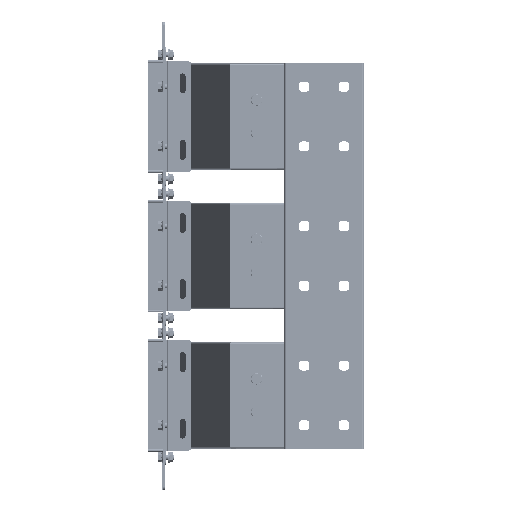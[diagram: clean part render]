
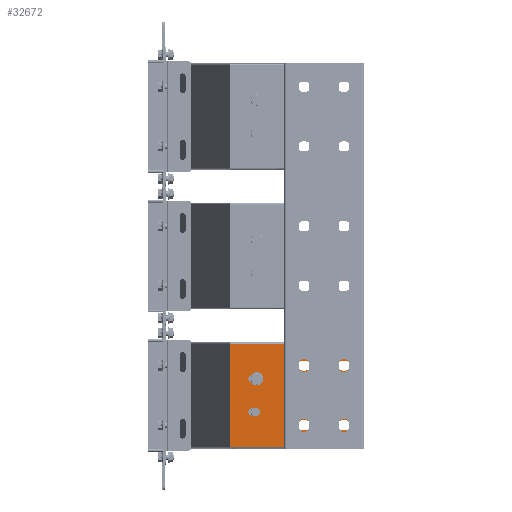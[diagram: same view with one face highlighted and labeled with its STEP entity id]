
A CAD part, front view. The second image highlights one B-rep face of the part: STEP entity #32672.
In plain terms, the highlighted planar face has unit normal (0, -1, 0).
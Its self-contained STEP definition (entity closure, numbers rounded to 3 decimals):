
#32428=AXIS2_PLACEMENT_3D('Circle Axis2P3D',#32426,#32427,$) ;
#32448=AXIS2_PLACEMENT_3D('Plane Axis2P3D',#32445,#32446,#32447) ;
#32486=AXIS2_PLACEMENT_3D('Circle Axis2P3D',#32484,#32485,$) ;
#32504=AXIS2_PLACEMENT_3D('Circle Axis2P3D',#32502,#32503,$) ;
#32520=AXIS2_PLACEMENT_3D('Circle Axis2P3D',#32518,#32519,$) ;
#32538=AXIS2_PLACEMENT_3D('Circle Axis2P3D',#32536,#32537,$) ;
#32554=AXIS2_PLACEMENT_3D('Circle Axis2P3D',#32552,#32553,$) ;
#32581=AXIS2_PLACEMENT_3D('Circle Axis2P3D',#32579,#32580,$) ;
#32595=AXIS2_PLACEMENT_3D('Circle Axis2P3D',#32593,#32594,$) ;
#32606=AXIS2_PLACEMENT_3D('Circle Axis2P3D',#32604,#32605,$) ;
#32622=AXIS2_PLACEMENT_3D('Circle Axis2P3D',#32620,#32621,$) ;
#32640=AXIS2_PLACEMENT_3D('Circle Axis2P3D',#32638,#32639,$) ;
#32656=AXIS2_PLACEMENT_3D('Circle Axis2P3D',#32654,#32655,$) ;
#32392=CARTESIAN_POINT('Vertex',(212.5,-218.,52.5)) ;
#32395=CARTESIAN_POINT('Line Origine',(210.,-218.,52.5)) ;
#32399=CARTESIAN_POINT('Vertex',(207.5,-218.,52.5)) ;
#32426=CARTESIAN_POINT('Axis2P3D Location',(207.5,-218.,45.)) ;
#32430=CARTESIAN_POINT('Vertex',(207.5,-218.,37.5)) ;
#32445=CARTESIAN_POINT('Axis2P3D Location',(300.,-218.,-77.)) ;
#32450=CARTESIAN_POINT('Line Origine',(199.021,-218.,-77.)) ;
#32454=CARTESIAN_POINT('Vertex',(300.,-218.,-77.)) ;
#32456=CARTESIAN_POINT('Vertex',(98.041,-218.,-77.)) ;
#32459=CARTESIAN_POINT('Line Origine',(300.,-218.,0.)) ;
#32463=CARTESIAN_POINT('Vertex',(300.,-218.,77.)) ;
#32466=CARTESIAN_POINT('Line Origine',(199.021,-218.,77.)) ;
#32470=CARTESIAN_POINT('Vertex',(98.041,-218.,77.)) ;
#32473=CARTESIAN_POINT('Line Origine',(98.041,-218.,0.)) ;
#32484=CARTESIAN_POINT('Axis2P3D Location',(212.5,-218.,45.)) ;
#32488=CARTESIAN_POINT('Vertex',(212.5,-218.,37.5)) ;
#32491=CARTESIAN_POINT('Line Origine',(210.,-218.,37.5)) ;
#32502=CARTESIAN_POINT('Axis2P3D Location',(272.5,-218.,45.)) ;
#32506=CARTESIAN_POINT('Vertex',(272.5,-218.,37.5)) ;
#32508=CARTESIAN_POINT('Vertex',(272.5,-218.,52.5)) ;
#32511=CARTESIAN_POINT('Line Origine',(270.,-218.,37.5)) ;
#32515=CARTESIAN_POINT('Vertex',(267.5,-218.,37.5)) ;
#32518=CARTESIAN_POINT('Axis2P3D Location',(267.5,-218.,45.)) ;
#32522=CARTESIAN_POINT('Vertex',(267.5,-218.,52.5)) ;
#32525=CARTESIAN_POINT('Line Origine',(270.,-218.,52.5)) ;
#32536=CARTESIAN_POINT('Axis2P3D Location',(207.5,-218.,-45.)) ;
#32540=CARTESIAN_POINT('Vertex',(207.5,-218.,-37.5)) ;
#32542=CARTESIAN_POINT('Vertex',(207.5,-218.,-52.5)) ;
#32545=CARTESIAN_POINT('Line Origine',(210.,-218.,-37.5)) ;
#32549=CARTESIAN_POINT('Vertex',(212.5,-218.,-37.5)) ;
#32552=CARTESIAN_POINT('Axis2P3D Location',(212.5,-218.,-45.)) ;
#32556=CARTESIAN_POINT('Vertex',(212.5,-218.,-52.5)) ;
#32559=CARTESIAN_POINT('Line Origine',(210.,-218.,-52.5)) ;
#32570=CARTESIAN_POINT('Line Origine',(270.,-218.,-37.5)) ;
#32574=CARTESIAN_POINT('Vertex',(272.5,-218.,-37.5)) ;
#32576=CARTESIAN_POINT('Vertex',(267.5,-218.,-37.5)) ;
#32579=CARTESIAN_POINT('Axis2P3D Location',(272.5,-218.,-45.)) ;
#32583=CARTESIAN_POINT('Vertex',(272.5,-218.,-52.5)) ;
#32586=CARTESIAN_POINT('Line Origine',(270.,-218.,-52.5)) ;
#32590=CARTESIAN_POINT('Vertex',(267.5,-218.,-52.5)) ;
#32593=CARTESIAN_POINT('Axis2P3D Location',(267.5,-218.,-45.)) ;
#32604=CARTESIAN_POINT('Axis2P3D Location',(138.5,-218.,25.)) ;
#32608=CARTESIAN_POINT('Vertex',(138.5,-218.,19.5)) ;
#32610=CARTESIAN_POINT('Vertex',(138.5,-218.,30.5)) ;
#32613=CARTESIAN_POINT('Line Origine',(135.,-218.,19.5)) ;
#32617=CARTESIAN_POINT('Vertex',(131.5,-218.,19.5)) ;
#32620=CARTESIAN_POINT('Axis2P3D Location',(131.5,-218.,25.)) ;
#32624=CARTESIAN_POINT('Vertex',(131.5,-218.,30.5)) ;
#32627=CARTESIAN_POINT('Line Origine',(135.,-218.,30.5)) ;
#32638=CARTESIAN_POINT('Axis2P3D Location',(131.5,-218.,-25.)) ;
#32642=CARTESIAN_POINT('Vertex',(131.5,-218.,-19.5)) ;
#32644=CARTESIAN_POINT('Vertex',(131.5,-218.,-30.5)) ;
#32647=CARTESIAN_POINT('Line Origine',(135.,-218.,-19.5)) ;
#32651=CARTESIAN_POINT('Vertex',(138.5,-218.,-19.5)) ;
#32654=CARTESIAN_POINT('Axis2P3D Location',(138.5,-218.,-25.)) ;
#32658=CARTESIAN_POINT('Vertex',(138.5,-218.,-30.5)) ;
#32661=CARTESIAN_POINT('Line Origine',(135.,-218.,-30.5)) ;
#32396=DIRECTION('Vector Direction',(1.,0.,0.)) ;
#32427=DIRECTION('Axis2P3D Direction',(0.,-1.,0.)) ;
#32446=DIRECTION('Axis2P3D Direction',(0.,-1.,0.)) ;
#32447=DIRECTION('Axis2P3D XDirection',(0.,0.,1.)) ;
#32451=DIRECTION('Vector Direction',(-1.,0.,0.)) ;
#32460=DIRECTION('Vector Direction',(0.,0.,1.)) ;
#32467=DIRECTION('Vector Direction',(-1.,0.,0.)) ;
#32474=DIRECTION('Vector Direction',(0.,0.,1.)) ;
#32485=DIRECTION('Axis2P3D Direction',(0.,-1.,0.)) ;
#32492=DIRECTION('Vector Direction',(-1.,0.,0.)) ;
#32503=DIRECTION('Axis2P3D Direction',(0.,-1.,0.)) ;
#32512=DIRECTION('Vector Direction',(1.,0.,0.)) ;
#32519=DIRECTION('Axis2P3D Direction',(0.,-1.,0.)) ;
#32526=DIRECTION('Vector Direction',(-1.,0.,0.)) ;
#32537=DIRECTION('Axis2P3D Direction',(0.,-1.,0.)) ;
#32546=DIRECTION('Vector Direction',(-1.,0.,0.)) ;
#32553=DIRECTION('Axis2P3D Direction',(0.,-1.,0.)) ;
#32560=DIRECTION('Vector Direction',(1.,0.,0.)) ;
#32571=DIRECTION('Vector Direction',(1.,0.,0.)) ;
#32580=DIRECTION('Axis2P3D Direction',(0.,-1.,0.)) ;
#32587=DIRECTION('Vector Direction',(-1.,0.,0.)) ;
#32594=DIRECTION('Axis2P3D Direction',(0.,-1.,0.)) ;
#32605=DIRECTION('Axis2P3D Direction',(0.,-1.,0.)) ;
#32614=DIRECTION('Vector Direction',(-1.,0.,0.)) ;
#32621=DIRECTION('Axis2P3D Direction',(0.,-1.,0.)) ;
#32628=DIRECTION('Vector Direction',(1.,0.,0.)) ;
#32639=DIRECTION('Axis2P3D Direction',(0.,-1.,0.)) ;
#32648=DIRECTION('Vector Direction',(-1.,0.,0.)) ;
#32655=DIRECTION('Axis2P3D Direction',(0.,-1.,0.)) ;
#32662=DIRECTION('Vector Direction',(1.,0.,0.)) ;
#32397=VECTOR('Line Direction',#32396,1.) ;
#32452=VECTOR('Line Direction',#32451,1.) ;
#32461=VECTOR('Line Direction',#32460,1.) ;
#32468=VECTOR('Line Direction',#32467,1.) ;
#32475=VECTOR('Line Direction',#32474,1.) ;
#32493=VECTOR('Line Direction',#32492,1.) ;
#32513=VECTOR('Line Direction',#32512,1.) ;
#32527=VECTOR('Line Direction',#32526,1.) ;
#32547=VECTOR('Line Direction',#32546,1.) ;
#32561=VECTOR('Line Direction',#32560,1.) ;
#32572=VECTOR('Line Direction',#32571,1.) ;
#32588=VECTOR('Line Direction',#32587,1.) ;
#32615=VECTOR('Line Direction',#32614,1.) ;
#32629=VECTOR('Line Direction',#32628,1.) ;
#32649=VECTOR('Line Direction',#32648,1.) ;
#32663=VECTOR('Line Direction',#32662,1.) ;
#32479=ORIENTED_EDGE('',*,*,#32458,.F.) ;
#32480=ORIENTED_EDGE('',*,*,#32465,.F.) ;
#32481=ORIENTED_EDGE('',*,*,#32472,.T.) ;
#32482=ORIENTED_EDGE('',*,*,#32477,.F.) ;
#32497=ORIENTED_EDGE('',*,*,#32490,.F.) ;
#32498=ORIENTED_EDGE('',*,*,#32495,.F.) ;
#32499=ORIENTED_EDGE('',*,*,#32432,.F.) ;
#32500=ORIENTED_EDGE('',*,*,#32401,.F.) ;
#32531=ORIENTED_EDGE('',*,*,#32510,.F.) ;
#32532=ORIENTED_EDGE('',*,*,#32517,.F.) ;
#32533=ORIENTED_EDGE('',*,*,#32524,.F.) ;
#32534=ORIENTED_EDGE('',*,*,#32529,.F.) ;
#32565=ORIENTED_EDGE('',*,*,#32544,.F.) ;
#32566=ORIENTED_EDGE('',*,*,#32551,.F.) ;
#32567=ORIENTED_EDGE('',*,*,#32558,.F.) ;
#32568=ORIENTED_EDGE('',*,*,#32563,.F.) ;
#32599=ORIENTED_EDGE('',*,*,#32578,.F.) ;
#32600=ORIENTED_EDGE('',*,*,#32585,.F.) ;
#32601=ORIENTED_EDGE('',*,*,#32592,.F.) ;
#32602=ORIENTED_EDGE('',*,*,#32597,.F.) ;
#32633=ORIENTED_EDGE('',*,*,#32612,.F.) ;
#32634=ORIENTED_EDGE('',*,*,#32619,.F.) ;
#32635=ORIENTED_EDGE('',*,*,#32626,.F.) ;
#32636=ORIENTED_EDGE('',*,*,#32631,.F.) ;
#32667=ORIENTED_EDGE('',*,*,#32646,.F.) ;
#32668=ORIENTED_EDGE('',*,*,#32653,.F.) ;
#32669=ORIENTED_EDGE('',*,*,#32660,.F.) ;
#32670=ORIENTED_EDGE('',*,*,#32665,.F.) ;
#32501=FACE_BOUND('',#32496,.T.) ;
#32535=FACE_BOUND('',#32530,.T.) ;
#32569=FACE_BOUND('',#32564,.T.) ;
#32603=FACE_BOUND('',#32598,.T.) ;
#32637=FACE_BOUND('',#32632,.T.) ;
#32671=FACE_BOUND('',#32666,.T.) ;
#32672=ADVANCED_FACE('N',(#32483,#32501,#32535,#32569,#32603,#32637,#32671),#32449,.T.) ;
#32429=CIRCLE('generated circle',#32428,7.5) ;
#32487=CIRCLE('generated circle',#32486,7.5) ;
#32505=CIRCLE('generated circle',#32504,7.5) ;
#32521=CIRCLE('generated circle',#32520,7.5) ;
#32539=CIRCLE('generated circle',#32538,7.5) ;
#32555=CIRCLE('generated circle',#32554,7.5) ;
#32582=CIRCLE('generated circle',#32581,7.5) ;
#32596=CIRCLE('generated circle',#32595,7.5) ;
#32607=CIRCLE('generated circle',#32606,5.5) ;
#32623=CIRCLE('generated circle',#32622,5.5) ;
#32641=CIRCLE('generated circle',#32640,5.5) ;
#32657=CIRCLE('generated circle',#32656,5.5) ;
#32401=EDGE_CURVE('',#32393,#32400,#32398,.F.) ;
#32432=EDGE_CURVE('',#32400,#32431,#32429,.T.) ;
#32458=EDGE_CURVE('',#32455,#32457,#32453,.T.) ;
#32465=EDGE_CURVE('',#32464,#32455,#32462,.F.) ;
#32472=EDGE_CURVE('',#32464,#32471,#32469,.T.) ;
#32477=EDGE_CURVE('',#32457,#32471,#32476,.T.) ;
#32490=EDGE_CURVE('',#32489,#32393,#32487,.T.) ;
#32495=EDGE_CURVE('',#32431,#32489,#32494,.F.) ;
#32510=EDGE_CURVE('',#32507,#32509,#32505,.T.) ;
#32517=EDGE_CURVE('',#32516,#32507,#32514,.T.) ;
#32524=EDGE_CURVE('',#32523,#32516,#32521,.T.) ;
#32529=EDGE_CURVE('',#32509,#32523,#32528,.T.) ;
#32544=EDGE_CURVE('',#32541,#32543,#32539,.T.) ;
#32551=EDGE_CURVE('',#32550,#32541,#32548,.T.) ;
#32558=EDGE_CURVE('',#32557,#32550,#32555,.T.) ;
#32563=EDGE_CURVE('',#32543,#32557,#32562,.T.) ;
#32578=EDGE_CURVE('',#32575,#32577,#32573,.F.) ;
#32585=EDGE_CURVE('',#32584,#32575,#32582,.T.) ;
#32592=EDGE_CURVE('',#32591,#32584,#32589,.F.) ;
#32597=EDGE_CURVE('',#32577,#32591,#32596,.T.) ;
#32612=EDGE_CURVE('',#32609,#32611,#32607,.T.) ;
#32619=EDGE_CURVE('',#32618,#32609,#32616,.F.) ;
#32626=EDGE_CURVE('',#32625,#32618,#32623,.T.) ;
#32631=EDGE_CURVE('',#32611,#32625,#32630,.F.) ;
#32646=EDGE_CURVE('',#32643,#32645,#32641,.T.) ;
#32653=EDGE_CURVE('',#32652,#32643,#32650,.T.) ;
#32660=EDGE_CURVE('',#32659,#32652,#32657,.T.) ;
#32665=EDGE_CURVE('',#32645,#32659,#32664,.T.) ;
#32478=EDGE_LOOP('',(#32479,#32480,#32481,#32482)) ;
#32496=EDGE_LOOP('',(#32497,#32498,#32499,#32500)) ;
#32530=EDGE_LOOP('',(#32531,#32532,#32533,#32534)) ;
#32564=EDGE_LOOP('',(#32565,#32566,#32567,#32568)) ;
#32598=EDGE_LOOP('',(#32599,#32600,#32601,#32602)) ;
#32632=EDGE_LOOP('',(#32633,#32634,#32635,#32636)) ;
#32666=EDGE_LOOP('',(#32667,#32668,#32669,#32670)) ;
#32483=FACE_OUTER_BOUND('',#32478,.T.) ;
#32398=LINE('Line',#32395,#32397) ;
#32453=LINE('Line',#32450,#32452) ;
#32462=LINE('Line',#32459,#32461) ;
#32469=LINE('Line',#32466,#32468) ;
#32476=LINE('Line',#32473,#32475) ;
#32494=LINE('Line',#32491,#32493) ;
#32514=LINE('Line',#32511,#32513) ;
#32528=LINE('Line',#32525,#32527) ;
#32548=LINE('Line',#32545,#32547) ;
#32562=LINE('Line',#32559,#32561) ;
#32573=LINE('Line',#32570,#32572) ;
#32589=LINE('Line',#32586,#32588) ;
#32616=LINE('Line',#32613,#32615) ;
#32630=LINE('Line',#32627,#32629) ;
#32650=LINE('Line',#32647,#32649) ;
#32664=LINE('Line',#32661,#32663) ;
#32449=PLANE('',#32448) ;
#32393=VERTEX_POINT('',#32392) ;
#32400=VERTEX_POINT('',#32399) ;
#32431=VERTEX_POINT('',#32430) ;
#32455=VERTEX_POINT('',#32454) ;
#32457=VERTEX_POINT('',#32456) ;
#32464=VERTEX_POINT('',#32463) ;
#32471=VERTEX_POINT('',#32470) ;
#32489=VERTEX_POINT('',#32488) ;
#32507=VERTEX_POINT('',#32506) ;
#32509=VERTEX_POINT('',#32508) ;
#32516=VERTEX_POINT('',#32515) ;
#32523=VERTEX_POINT('',#32522) ;
#32541=VERTEX_POINT('',#32540) ;
#32543=VERTEX_POINT('',#32542) ;
#32550=VERTEX_POINT('',#32549) ;
#32557=VERTEX_POINT('',#32556) ;
#32575=VERTEX_POINT('',#32574) ;
#32577=VERTEX_POINT('',#32576) ;
#32584=VERTEX_POINT('',#32583) ;
#32591=VERTEX_POINT('',#32590) ;
#32609=VERTEX_POINT('',#32608) ;
#32611=VERTEX_POINT('',#32610) ;
#32618=VERTEX_POINT('',#32617) ;
#32625=VERTEX_POINT('',#32624) ;
#32643=VERTEX_POINT('',#32642) ;
#32645=VERTEX_POINT('',#32644) ;
#32652=VERTEX_POINT('',#32651) ;
#32659=VERTEX_POINT('',#32658) ;
